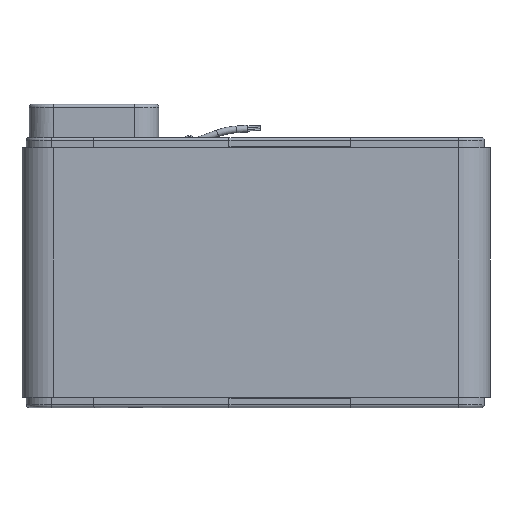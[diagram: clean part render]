
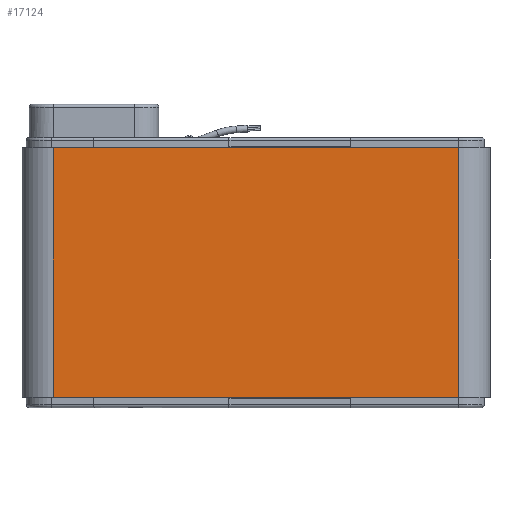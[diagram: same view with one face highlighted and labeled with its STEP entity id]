
A CAD part, left-side view. The second image highlights one B-rep face of the part: STEP entity #17124.
In plain terms, the highlighted planar face has unit normal (-1, 0, 0).
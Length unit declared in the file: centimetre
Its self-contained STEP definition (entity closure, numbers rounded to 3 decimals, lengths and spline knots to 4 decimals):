
#471=PLANE('',#18398);
#1347=FACE_OUTER_BOUND('',#2310,.T.);
#2310=EDGE_LOOP('',(#12215,#12216,#12217,#12218));
#4259=LINE('',#26469,#5600);
#4274=LINE('',#26502,#5615);
#4275=LINE('',#26505,#5616);
#4276=LINE('',#26506,#5617);
#5600=VECTOR('',#21072,1.);
#5615=VECTOR('',#21095,1.);
#5616=VECTOR('',#21098,1.);
#5617=VECTOR('',#21099,1.);
#7117=VERTEX_POINT('',#26463);
#7119=VERTEX_POINT('',#26467);
#7133=VERTEX_POINT('',#26500);
#7134=VERTEX_POINT('',#26504);
#9023=EDGE_CURVE('',#7117,#7119,#4259,.T.);
#9040=EDGE_CURVE('',#7119,#7133,#4274,.T.);
#9041=EDGE_CURVE('',#7133,#7134,#4275,.T.);
#9042=EDGE_CURVE('',#7117,#7134,#4276,.T.);
#12215=ORIENTED_EDGE('',*,*,#9023,.T.);
#12216=ORIENTED_EDGE('',*,*,#9040,.T.);
#12217=ORIENTED_EDGE('',*,*,#9041,.T.);
#12218=ORIENTED_EDGE('',*,*,#9042,.F.);
#17124=ADVANCED_FACE('',(#1347),#471,.T.);
#18398=AXIS2_PLACEMENT_3D('',#26503,#21096,#21097);
#21072=DIRECTION('',(0.,-1.,0.));
#21095=DIRECTION('',(0.,0.,1.));
#21096=DIRECTION('center_axis',(-1.,0.,0.));
#21097=DIRECTION('ref_axis',(0.,0.,
1.));
#21098=DIRECTION('',(0.,1.,0.));
#21099=DIRECTION('',(0.,0.,1.));
#26463=CARTESIAN_POINT('',(-2.33,13.,-9.25));
#26467=CARTESIAN_POINT('',(-2.33,-17.,-9.25));
#26469=CARTESIAN_POINT('',(-2.33,13.,-9.25));
#26500=CARTESIAN_POINT('',(-2.33,-17.,9.25));
#26502=CARTESIAN_POINT('',(-2.33,-17.,0.));
#26503=CARTESIAN_POINT('Origin',(-2.33,13.,0.));
#26504=CARTESIAN_POINT('',(-2.33,13.,9.25));
#26505=CARTESIAN_POINT('',(-2.33,13.,9.25));
#26506=CARTESIAN_POINT('',(-2.33,13.,0.));
